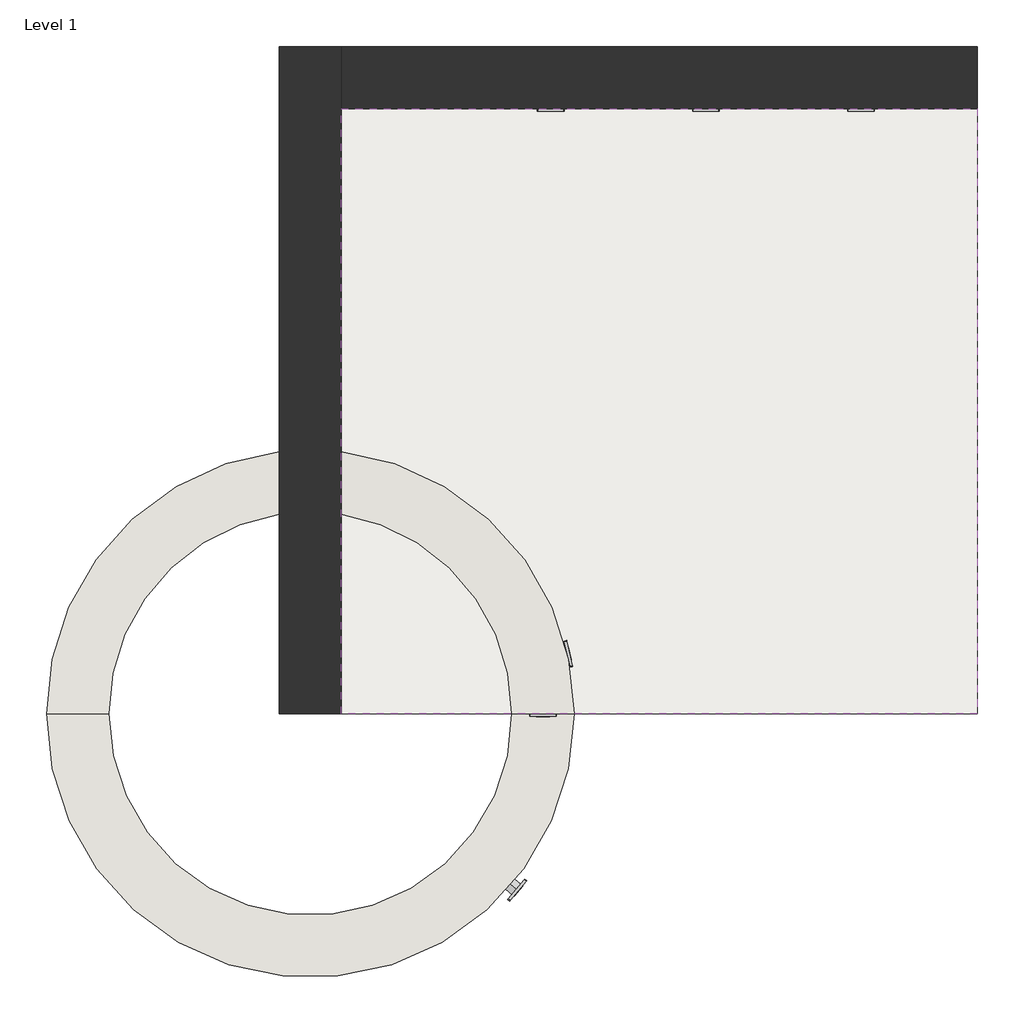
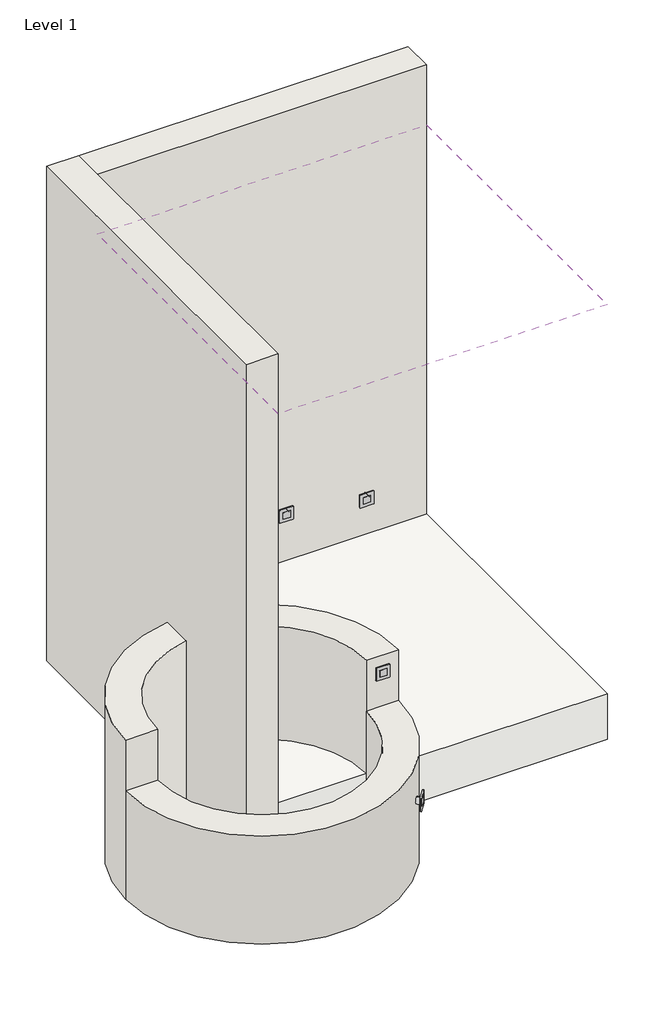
# One storey: 6 light fixtures, 4 walls, 1 covering, 1 slab.
"""IFC4 building model written with IfcOpenShell, lengths in millimetres."""

from ifc_helpers import new_model, si_unit, point, frame, frame_2d, origin, place, context, project, spatial, polyline, circle_curve, trimmed, segment, composite_curve, outline, extrude, faceted_brep, transform, mapped, element, save
from ifc_brep_helpers import plane_surface, cylinder_surface, revolved_surface, advanced_brep
from components import light_fixture_beaa7f83

model = new_model("IFC4")

# Units and contexts
model_context = context("Model", 3, world=origin())
ifc_project = project(units=[si_unit("LENGTHUNIT", "METRE", prefix="MILLI")], contexts=[model_context])

# Site, building, storey
site = spatial("IfcSite", under=ifc_project)
building = spatial("IfcBuilding", under=site)
storey = spatial("IfcBuildingStorey", under=building, Name="Level 1", Elevation=0.0)

# Covering
placement = place(None, origin())
element("IfcCovering", 1, ObjectType="Ceiling 2", at=placement, inside=storey, context=model_context, shape_type="SweptSolid", body=[
    extrude(outline(polyline([(4291.0676417, 3741.7404022), (4291.0676417, 1760.5404022), (2208.2676417, 1760.5404022), (2208.2676417, 3741.7404022), (4291.0676417, 3741.7404022)])), frame((0.0, 0.0, 2600.0), z_axis=(0.0, 0.0, 1.0), x_axis=(1.0, 0.0, 0.0)), (0.0, 0.0, 1.0), 25.4),
])

# Light fixtures
light_fixture_shape = light_fixture_beaa7f83(model_context)
element("IfcLightFixture", 2, ObjectType="LSLDQ00_SURFACE MOUNT BASIC : LLSLDQ00W-T40", at=placement, inside=storey, context=model_context, shape_type="MappedRepresentation", body=[
    mapped(light_fixture_shape, transform((2894.0676417, 3741.7404022, 451.6332892), x_axis=(1.0, 0.0, 0.0), y_axis=(0.0, 0.0, 1.0), z_axis=(0.0, -1.0, 0.0))),
])
element("IfcLightFixture", 3, ObjectType="LSLDQ00_SURFACE MOUNT BASIC : LLSLDQ00W-T40", at=placement, inside=storey, context=model_context, shape_type="MappedRepresentation", body=[
    mapped(light_fixture_shape, transform((2781.414642, 1185.2661678, 196.9535544), x_axis=(0.6487864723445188, 0.7609705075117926, 0.0), y_axis=(0.0, 0.0, 1.0), z_axis=(0.7609705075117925, -0.6487864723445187, 0.0))),
])
element("IfcLightFixture", 4, ObjectType="LSLDQ00_SURFACE MOUNT BASIC : LLSLDQ00W-T40", at=placement, inside=storey, context=model_context, shape_type="MappedRepresentation", body=[
    mapped(light_fixture_shape, transform((3402.0676417, 3741.7404022, 344.6698188), x_axis=(1.0, 0.0, 0.0), y_axis=(0.0, 0.0, 1.0), z_axis=(0.0, -1.0, 0.0))),
])
element("IfcLightFixture", 5, ObjectType="LSLDQ00_SURFACE MOUNT BASIC : LLSLDQ00W-T40", at=placement, inside=storey, context=model_context, shape_type="MappedRepresentation", body=[
    mapped(light_fixture_shape, transform((3910.0676417, 3741.7404022, 268.0774628), x_axis=(1.0, 0.0, 0.0), y_axis=(0.0, 0.0, 1.0), z_axis=(0.0, -1.0, 0.0))),
])
element("IfcLightFixture", 6, ObjectType="LSLDQ00_SURFACE MOUNT BASIC : LLSLDQ00W-T40", at=placement, inside=storey, context=model_context, shape_type="MappedRepresentation", body=[
    mapped(light_fixture_shape, transform((2947.8798992, 1955.9039041, 574.7937764), x_axis=(-0.22621989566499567, 0.9740762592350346, 0.0), y_axis=(0.0, 0.0, 1.0), z_axis=(0.9740762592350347, 0.22621989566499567, 0.0))),
])
element("IfcLightFixture", 7, ObjectType="LSLDQ00_SURFACE MOUNT BASIC : LLSLDQ00W-T40", at=placement, inside=storey, context=model_context, shape_type="MappedRepresentation", body=[
    mapped(light_fixture_shape, transform((2902.4669299, 1760.5404022, 643.0892975), x_axis=(0.0, 0.0, -1.0), y_axis=(1.0, 0.0, 0.0), z_axis=(0.0, -1.0, 0.0))),
])

# Slab
element("IfcSlab", 8, ObjectType="Floor 1", at=placement, inside=storey, context=model_context, shape_type="SweptSolid", body=[
    extrude(outline(polyline([(4291.0676417, 3741.7404022), (4291.0676417, 1760.5404022), (2208.2676417, 1760.5404022), (2208.2676417, 3741.7404022), (4291.0676417, 3741.7404022)])), frame((0.0, 0.0, -304.8), z_axis=(0.0, 0.0, 1.0), x_axis=(1.0, 0.0, 0.0)), (0.0, 0.0, 1.0), 304.8),
])

# Walls
element("IfcWall", 9, ObjectType="Wall 1", at=placement, inside=storey, context=model_context, shape_type="Brep", body=[
    faceted_brep([(2005.0676417, 3944.9404022, -304.8), (2005.0676417, 2618.1431074, -304.8), (2005.0676417, 2413.0782172, -304.8), (2005.0676417, 1760.5404022, -304.8), (2005.0676417, 1760.5404022, 3000.0), (2005.0676417, 3944.9404022, 3000.0), (2208.2676417, 3944.9404022, -304.8), (2208.2676417, 3944.9404022, 3000.0), (2208.2676417, 3741.7404022, 3000.0), (2208.2676417, 1760.5404022, 3000.0), (2208.2676417, 1760.5404022, -304.8), (2208.2676417, 2413.0782172, -304.8), (2208.2676417, 2618.1431074, -304.8), (2208.2676417, 3741.7404022, -304.8)], [[[0, 1, 2, 3, 4, 5]], [[6, 7, 8, 9, 10, 11, 12, 13]], [[3, 2, 1, 0, 6, 13, 12, 11, 10]], [[4, 3, 10, 9]], [[5, 4, 9, 8, 7]], [[0, 5, 7, 6]]]),
])
element("IfcWall", 10, ObjectType="Wall 1", at=placement, inside=storey, context=model_context, shape_type="SweptSolid", body=[
    extrude(outline(polyline([(4291.0676417, 3741.7404022), (2208.2676417, 3741.7404022), (2208.2676417, 3944.9404022), (4291.0676417, 3944.9404022), (4291.0676417, 3741.7404022)])), frame((0.0, 0.0, -304.8), z_axis=(0.0, 0.0, 1.0), x_axis=(1.0, 0.0, 0.0)), (0.0, 0.0, 1.0), 3304.8),
])
element("IfcWall", 11, ObjectType="Wall 1", at=placement, inside=storey, context=model_context, shape_type="AdvancedBrep", body=[
    advanced_brep(
    [(2767.0676417, 1760.5404022, 757.340831), (2970.2676417, 1760.5404022, 757.340831), (2208.2676417, 2618.1431074, 757.340831), (2208.2676417, 2413.0782172, 757.340831), (2970.2676417, 1760.5404022, -304.8), (2767.0676417, 1760.5404022, -304.8), (2208.2676417, 2413.0782172, -304.8), (2208.2676417, 2618.1431074, -304.8), (2767.0676417, 1760.5404022, 417.834001), (2970.2676417, 1760.5404022, 417.834001)],
    [
        (0, 1),
        (1, 2, circle_curve(frame((2106.6676417, 1760.5404022, 757.340831), z_axis=(0.0, 0.0, 1.0), x_axis=(1.0, 0.0, 0.0)), 863.6)),
        (2, 3),
        (3, 0, circle_curve(frame((2106.6676417, 1760.5404022, 757.340831), z_axis=(0.0, 0.0, -1.0), x_axis=(1.0, 0.0, 0.0)), 660.4)),
        (4, 5),
        (5, 6, circle_curve(frame((2106.6676417, 1760.5404022, -304.8), z_axis=(0.0, 0.0, 1.0), x_axis=(1.0, 0.0, 0.0)), 660.4)),
        (6, 7),
        (7, 4, circle_curve(frame((2106.6676417, 1760.5404022, -304.8), z_axis=(0.0, 0.0, -1.0), x_axis=(1.0, 0.0, 0.0)), 863.6)),
        (5, 8),
        (8, 0),
        (3, 6),
        (4, 9),
        (9, 1),
        (7, 2),
    ],
    [
        plane_surface(frame((2767.0676417, 1760.5404022, 757.340831), z_axis=(0.0, 0.0, 1.0), x_axis=(0.0, -1.0, 0.0))),
        plane_surface(frame((2767.0676417, 1760.5404022, -304.8), z_axis=(0.0, 0.0, -1.0), x_axis=(0.0, 1.0, 0.0))),
        revolved_surface(polyline([(2767.0676417, 1760.5404022, -304.8), (2767.0676417, 1760.5404022, 757.340831)]), (2106.6676417, 1760.5404022, -304.8), (0.0, 0.0, -1.0)),
        plane_surface(frame((2767.0676417, 1760.5404022, 757.340831), z_axis=(0.0, -1.0, 0.0), x_axis=(0.0, 0.0, -1.0))),
        cylinder_surface(frame((2106.6676417, 1760.5404022, -304.8), z_axis=(0.0, 0.0, 1.0), x_axis=(1.0, 0.0, 0.0)), 863.6),
        plane_surface(frame((2208.2676417, 3741.7404022, -304.8), z_axis=(-1.0, 0.0, 0.0), x_axis=(0.0, 1.0, 0.0))),
    ],
    [
        (0, [[1, 2, 3, 4]]),
        (1, [[5, 6, 7, 8]]),
        (2, [[9, 10, -4, 11, -6]]),
        (3, [[-1, -10, -9, -5, 12, 13]]),
        (4, [[-13, -12, -8, 14, -2]]),
        (5, [[-3, -14, -7, -11]]),
    ],
),
    advanced_brep(
    [(1243.0676417, 1760.5404022, 757.340831), (1446.2676417, 1760.5404022, 757.340831), (2005.0676417, 2413.0782172, 757.340831), (2005.0676417, 2618.1431074, 757.340831), (1446.2676417, 1760.5404022, -304.8), (1243.0676417, 1760.5404022, -304.8), (2005.0676417, 2618.1431074, -304.8), (2005.0676417, 2413.0782172, -304.8), (1446.2676417, 1760.5404022, 417.834001), (1243.0676417, 1760.5404022, 417.834001)],
    [
        (0, 1),
        (1, 2, circle_curve(frame((2106.6676417, 1760.5404022, 757.340831), z_axis=(0.0, 0.0, -1.0), x_axis=(1.0, 0.0, 0.0)), 660.4)),
        (2, 3),
        (3, 0, circle_curve(frame((2106.6676417, 1760.5404022, 757.340831), z_axis=(0.0, 0.0, 1.0), x_axis=(1.0, 0.0, 0.0)), 863.6)),
        (4, 5),
        (5, 6, circle_curve(frame((2106.6676417, 1760.5404022, -304.8), z_axis=(0.0, 0.0, -1.0), x_axis=(1.0, 0.0, 0.0)), 863.6)),
        (6, 7),
        (7, 4, circle_curve(frame((2106.6676417, 1760.5404022, -304.8), z_axis=(0.0, 0.0, 1.0), x_axis=(1.0, 0.0, 0.0)), 660.4)),
        (1, 8),
        (8, 4),
        (7, 2),
        (5, 9),
        (9, 0),
        (3, 6),
    ],
    [
        plane_surface(frame((2767.0676417, 1760.5404022, 757.340831), z_axis=(0.0, 0.0, 1.0), x_axis=(0.0, -1.0, 0.0))),
        plane_surface(frame((2767.0676417, 1760.5404022, -304.8), z_axis=(0.0, 0.0, -1.0), x_axis=(0.0, 1.0, 0.0))),
        revolved_surface(polyline([(2767.0676417, 1760.5404022, -304.8), (2767.0676417, 1760.5404022, 757.340831)]), (2106.6676417, 1760.5404022, -304.8), (0.0, 0.0, -1.0)),
        cylinder_surface(frame((2106.6676417, 1760.5404022, -304.8), z_axis=(0.0, 0.0, 1.0), x_axis=(1.0, 0.0, 0.0)), 863.6),
        plane_surface(frame((1243.0676417, 1760.5404022, 757.340831), z_axis=(0.0, -1.0, 0.0), x_axis=(0.0, 0.0, -1.0))),
        plane_surface(frame((2005.0676417, 3741.7404022, -304.8), z_axis=(1.0, 0.0, 0.0), x_axis=(0.0, -1.0, 0.0))),
    ],
    [
        (0, [[1, 2, 3, 4]]),
        (1, [[5, 6, 7, 8]]),
        (2, [[9, 10, -8, 11, -2]]),
        (3, [[12, 13, -4, 14, -6]]),
        (4, [[-1, -13, -12, -5, -10, -9]]),
        (5, [[-3, -11, -7, -14]]),
    ],
),
])
element("IfcWall", 12, ObjectType="Wall 1", at=placement, inside=storey, context=model_context, shape_type="SweptSolid", body=[
    extrude(outline(composite_curve([segment(polyline([(2767.0676417, 1760.5404022), (2970.2676417, 1760.5404022)]), True, "CONTINUOUS"), segment(trimmed(circle_curve(frame_2d((2106.6676417, 1760.5404022)), 863.6), [point((2970.2676417, 1760.5404022))], [point((1243.0676417, 1760.5404022))], False, "CARTESIAN"), True, "CONTINUOUS"), segment(polyline([(1243.0676417, 1760.5404022), (1446.2676417, 1760.5404022)]), True, "CONTINUOUS"), segment(trimmed(circle_curve(frame_2d((2106.6676417, 1760.5404022)), 660.4), [point((1446.2676417, 1760.5404022))], [point((2767.0676417, 1760.5404022))], True, "CARTESIAN"), True, "CONTINUOUS")], self_intersect=False)), frame((0.0, 0.0, -304.8), z_axis=(0.0, 0.0, 1.0), x_axis=(1.0, 0.0, 0.0)), (0.0, 0.0, 1.0), 722.634001),
])

save(model, "model.ifc")
